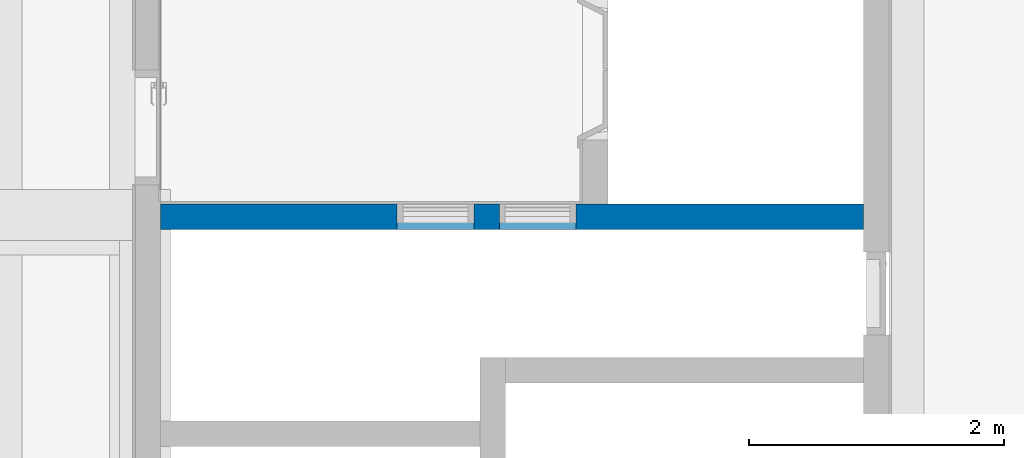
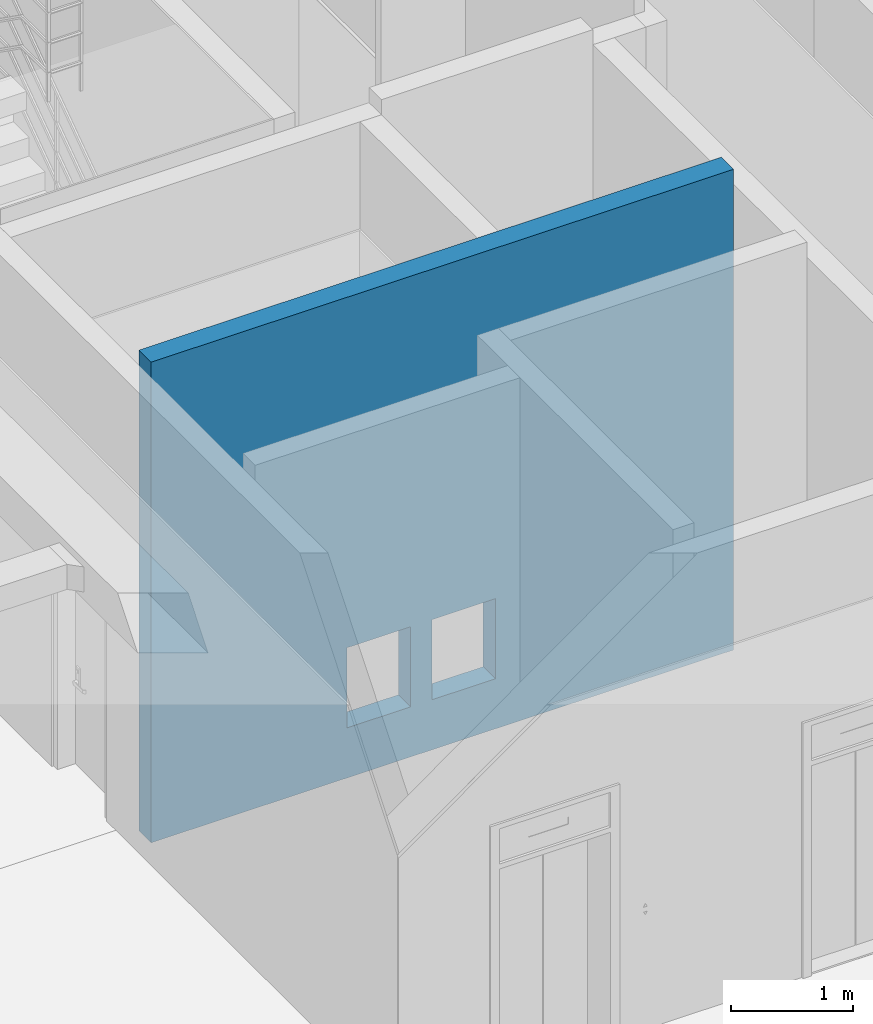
# One storey, part 41 of 100: 1 wall, 2 openings.
"""IFC2X3 building model written with IfcOpenShell, lengths in millimetres."""

from ifc_helpers import new_model, entity, si_unit, converted_unit, derived_unit, direction, frame, frame_2d, origin, place, context, subcontext, project, spatial, rectangle, extrude, material, layer, layer_set, layer_usage, type_object, element, save


model = new_model("IFC2X3")

# Units and contexts
model_context = context("Model", 3, precision=0.01, world=origin(), true_north=direction((6.123031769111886e-17, 1.0)))
body_context = subcontext(model_context, "Body", "Model", "MODEL_VIEW")
ifc_project = project(units=[si_unit("LENGTHUNIT", "METRE", prefix="MILLI"), si_unit("AREAUNIT", "SQUARE_METRE"), si_unit("VOLUMEUNIT", "CUBIC_METRE"), converted_unit("PLANEANGLEUNIT", "DEGREE", entity("IfcRatioMeasure", 0.017453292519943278), si_unit("PLANEANGLEUNIT", "RADIAN"), dimensions=[0, 0, 0, 0, 0, 0, 0]), si_unit("MASSUNIT", "GRAM", prefix="KILO"), derived_unit("MASSDENSITYUNIT", [(si_unit("MASSUNIT", "GRAM", prefix="KILO"), 1), (si_unit("LENGTHUNIT", "METRE"), -3)]), derived_unit("MOMENTOFINERTIAUNIT", [(si_unit("LENGTHUNIT", "METRE"), 4)]), si_unit("TIMEUNIT", "SECOND"), si_unit("FREQUENCYUNIT", "HERTZ"), si_unit("THERMODYNAMICTEMPERATUREUNIT", "DEGREE_CELSIUS"), derived_unit("THERMALTRANSMITTANCEUNIT", [(si_unit("MASSUNIT", "GRAM", prefix="KILO"), 1), (si_unit("THERMODYNAMICTEMPERATUREUNIT", "KELVIN"), -1), (si_unit("TIMEUNIT", "SECOND"), -3)]), derived_unit("VOLUMETRICFLOWRATEUNIT", [(si_unit("LENGTHUNIT", "METRE"), 3), (si_unit("TIMEUNIT", "SECOND"), -1)]), derived_unit("MASSFLOWRATEUNIT", [(si_unit("MASSUNIT", "GRAM", prefix="KILO"), 1), (si_unit("TIMEUNIT", "SECOND"), -1)]), derived_unit("ROTATIONALFREQUENCYUNIT", [(si_unit("TIMEUNIT", "SECOND"), -1)]), si_unit("ELECTRICCURRENTUNIT", "AMPERE"), si_unit("ELECTRICVOLTAGEUNIT", "VOLT"), si_unit("POWERUNIT", "WATT"), si_unit("FORCEUNIT", "NEWTON", prefix="KILO"), si_unit("ILLUMINANCEUNIT", "LUX"), si_unit("LUMINOUSFLUXUNIT", "LUMEN"), si_unit("LUMINOUSINTENSITYUNIT", "CANDELA"), derived_unit("USERDEFINED", [(si_unit("MASSUNIT", "GRAM", prefix="KILO"), -1), (si_unit("LENGTHUNIT", "METRE"), -2), (si_unit("TIMEUNIT", "SECOND"), 3), (si_unit("LUMINOUSFLUXUNIT", "LUMEN"), 1)]), derived_unit("SOUNDPOWERUNIT", [(si_unit("MASSUNIT", "GRAM", prefix="KILO"), 1), (si_unit("LENGTHUNIT", "METRE"), 2), (si_unit("TIMEUNIT", "SECOND"), -3)]), derived_unit("SOUNDPRESSUREUNIT", [(si_unit("MASSUNIT", "GRAM", prefix="KILO"), 1), (si_unit("LENGTHUNIT", "METRE"), -1), (si_unit("TIMEUNIT", "SECOND"), -2)]), derived_unit("LINEARVELOCITYUNIT", [(si_unit("LENGTHUNIT", "METRE"), 1), (si_unit("TIMEUNIT", "SECOND"), -1)]), si_unit("PRESSUREUNIT", "PASCAL"), derived_unit("USERDEFINED", [(si_unit("LENGTHUNIT", "METRE"), -2), (si_unit("MASSUNIT", "GRAM", prefix="KILO"), 1), (si_unit("TIMEUNIT", "SECOND"), -2)]), derived_unit("LINEARFORCEUNIT", [(si_unit("MASSUNIT", "GRAM", prefix="KILO"), 1), (si_unit("LENGTHUNIT", "METRE"), 1), (si_unit("TIMEUNIT", "SECOND"), -2), (si_unit("LENGTHUNIT", "METRE"), -1)]), derived_unit("PLANARFORCEUNIT", [(si_unit("MASSUNIT", "GRAM", prefix="KILO"), 1), (si_unit("LENGTHUNIT", "METRE"), 1), (si_unit("TIMEUNIT", "SECOND"), -2), (si_unit("LENGTHUNIT", "METRE"), -2)])], contexts=[model_context])

# Site, building, storey
site_placement = place(None, frame((-14167.972527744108, -657.2125860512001, 0.0)))
site = spatial("IfcSite", under=ifc_project, at=site_placement, Name="Default", CompositionType="ELEMENT")
building_placement = place(site_placement, origin())
building = spatial("IfcBuilding", under=site, at=building_placement, Name="Sample Building", CompositionType="ELEMENT")
storey_placement = place(building_placement, origin())
storey = spatial("IfcBuildingStorey", under=building, at=storey_placement, Name="지상 1층", CompositionType="ELEMENT", Elevation=0.0)

# Wall, openings
ifc_material = material(Name="KBIMS-콘크리트")
ifc_layer = layer(ifc_material, 200.0)
ifc_layer_set = layer_set([ifc_layer], Name="기본 벽:WA111-철근콘크리트구조 벽 200mm_CW1")
ifc_layer_usage = layer_usage(ifc_layer_set, "AXIS2", "NEGATIVE", 100.0)
wall_type = type_object("IfcWallType", Name="기본 벽:WA111-철근콘크리트구조 벽 200mm_CW1", PredefinedType="STANDARD", material=ifc_layer_set)
wall_placement = place(storey_placement, frame((30266.125814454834, 20057.212307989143, 0.0)))
wall = element("IfcWallStandardCase", 1, at=wall_placement, inside=storey, type_object=wall_type, material=ifc_layer_usage, Name="기본 벽:WA111-철근콘크리트구조 벽 200mm_CW1", ObjectType="기본 벽:WA111-철근콘크리트구조 벽 200mm_CW1", context=body_context, shape_type="SweptSolid", body=[
    extrude(rectangle(XDim=5501.846676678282, YDim=199.99999999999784, at=frame_2d((2750.923338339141, -1.2079226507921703e-13), x_axis=(-1.0, 0.0))), origin(), (0.0, 0.0, 1.0), 4799.999999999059),
])
opening_1_placement = place(wall_placement, frame((1851.846496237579, -100.0, 500.0)))
element("IfcOpeningElement", 2, at=opening_1_placement, cuts=wall, Name="WD733-그릴창(알루미늄):WD733-그릴창(알루미늄)_600x800mm:1", ObjectType="Opening", context=body_context, shape_type="SweptSolid", body=[
    extrude(rectangle(XDim=800.0000000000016, YDim=600.0000000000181, at=frame_2d((400.00000000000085, 300.0000000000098), x_axis=(-1.0, 0.0))), frame((0.0, 0.0, 0.0), z_axis=(0.0, 1.0, 0.0), x_axis=(0.0, 0.0, 1.0)), (0.0, 0.0, 1.0), 200.0),
])
opening_2_placement = place(wall_placement, frame((2651.846766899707, -100.0, 500.0)))
element("IfcOpeningElement", 3, at=opening_2_placement, cuts=wall, Name="WD733-그릴창(알루미늄):WD733-그릴창(알루미늄)_600x800mm:1", ObjectType="Opening", context=body_context, shape_type="SweptSolid", body=[
    extrude(rectangle(XDim=800.0000000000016, YDim=600.0000000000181, at=frame_2d((400.00000000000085, 300.0000000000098), x_axis=(-1.0, 0.0))), frame((0.0, 0.0, 0.0), z_axis=(0.0, 1.0, 0.0), x_axis=(0.0, 0.0, 1.0)), (0.0, 0.0, 1.0), 200.0),
])

save(model, "model.ifc")
